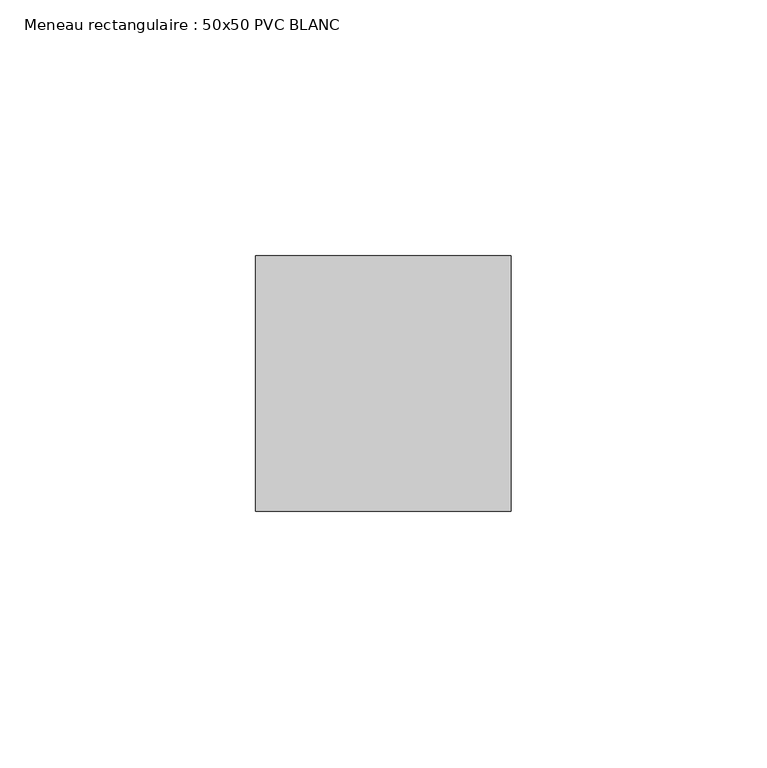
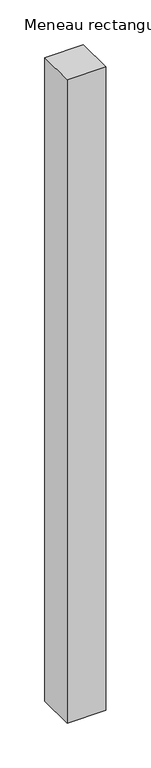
"""IFC4 building model written with IfcOpenShell, lengths in millimetres: member geometry, Meneau rectangulaire : 50x50 PVC BLANC."""

from ifc_helpers import new_model, si_unit, frame, origin, place, context, project, spatial, polyline, outline, extrude, source, transform, mapped, element, save


def meneau_rectangulaire_50x50_pvc_blanc_0026c58c(model_context):
    return source(origin(), model_context, "Body", "SweptSolid", [
        extrude(outline(polyline([(0.0, 0.0), (0.0, -50.0), (-50.0, -50.0), (-50.0, 0.0), (0.0, 0.0)])), frame((0.0, 0.0, -878.4223472), z_axis=(0.0, 0.0, 1.0), x_axis=(1.0, 0.0, 0.0)), (0.0, 0.0, 1.0), 878.4223472),
    ])


if __name__ == "__main__":
    model = new_model("IFC4")
    model_context = context("Model", 3, world=origin())
    ifc_project = project(units=[si_unit("LENGTHUNIT", "METRE", prefix="MILLI")], contexts=[model_context])
    site = spatial("IfcSite", under=ifc_project)
    building = spatial("IfcBuilding", under=site)
    placement = place(None, origin())
    meneau_rectangulaire_50x50_pvc_blanc_shape = meneau_rectangulaire_50x50_pvc_blanc_0026c58c(model_context)
    element("IfcMember", 1, ObjectType="Meneau rectangulaire : 50x50 PVC BLANC", at=placement, inside=building, context=model_context, shape_type="MappedRepresentation", body=[
        mapped(meneau_rectangulaire_50x50_pvc_blanc_shape, transform((0.0, 0.0, 0.0), x_axis=(1.0, 0.0, 0.0), y_axis=(0.0, 1.0, 0.0), z_axis=(0.0, 0.0, 1.0))),
    ])
    save(model, "model.ifc")
